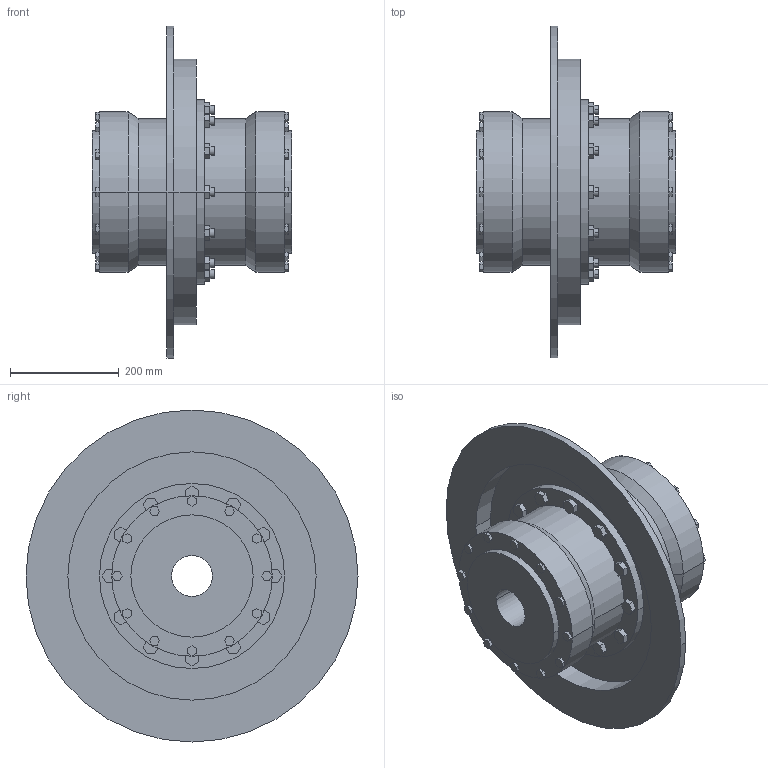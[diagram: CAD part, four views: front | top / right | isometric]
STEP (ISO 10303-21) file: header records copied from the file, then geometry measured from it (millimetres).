
FILE_DESCRIPTION((''),'2;1');
FILE_NAME('A19101600-0_ASM','2019-05-23T',('AB_Roschiwal'),('RENK AG'),'PRO/ENGINEER BY PARAMETRIC TECHNOLOGY CORPORATION, 2015440','PRO/ENGINEER BY PARAMETRIC TECHNOLOGY CORPORATION, 2015440','');
FILE_SCHEMA(('CONFIG_CONTROL_DESIGN'));
Length unit declared in the file: millimetre
Products named in the file (4): SBKT140_GEHAEUSE; SBKT140_NABE; SBKT140_BREMSSCHEIBE; A19101600-0_ASM
Assembly tree (4 placements, depth 2):
  A19101600-0_ASM
    SBKT140_GEHAEUSE
    SBKT140_NABE  x2
    SBKT140_BREMSSCHEIBE
Bounding box: 367 x 610 x 610 mm (x, y, z)
Volume: 23135175 mm3; surface area: 1935891.6 mm2
Topology: 4 solids, 4 shells, 470 faces, 1156 edges, 768 vertices
Faces by surface type: plane 370, cylinder 96, cone 4
Entity records: 13604 total; most frequent: CARTESIAN_POINT 2350, ORIENTED_EDGE 2264, DIRECTION 2240, EDGE_CURVE 1132, VECTOR 956, LINE 956, VERTEX_POINT 752, AXIS2_PLACEMENT_3D 642
